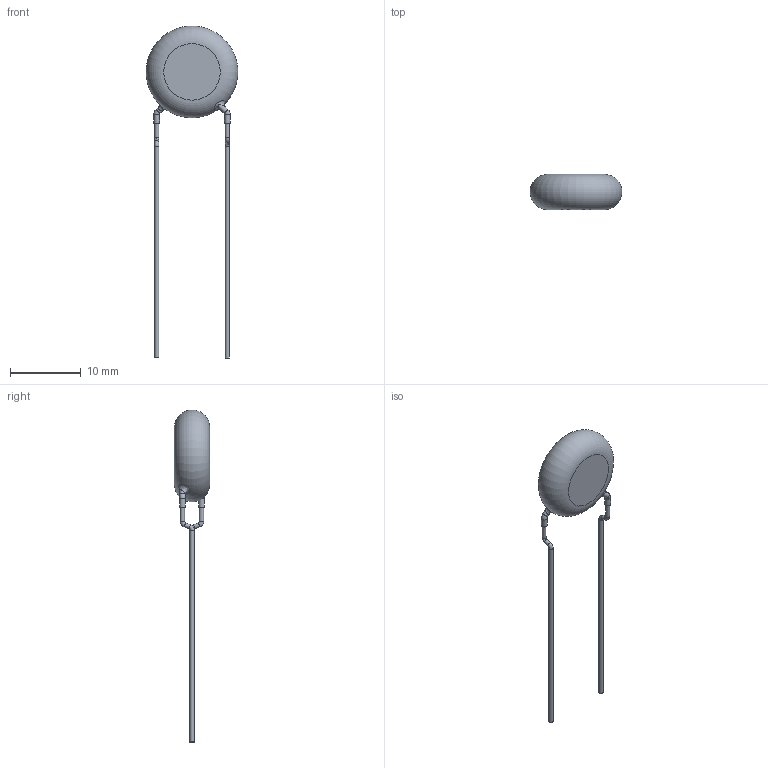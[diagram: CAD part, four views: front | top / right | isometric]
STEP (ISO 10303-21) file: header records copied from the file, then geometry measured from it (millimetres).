
FILE_DESCRIPTION((''),'2;1');
FILE_NAME('I:\Marketing\M6t1\3D-Models\Zchng-Werk-3\Upload for homepage\BCC\VY1-Compact\Y5U-10mm\VY1332M51Y5UC63V0\VY1332M51Y5UC63V0.stp','2015-09-01T11:48:53',('sherden'),(''),'Autodesk Inventor 2013','Autodesk Inventor 2013','');
FILE_SCHEMA(('CONFIG_CONTROL_DESIGN'));
Length unit declared in the file: millimetre
Products named in the file (1): VY1332M51Y5UC63V0
Bounding box: 13 x 5 x 47 mm (x, y, z)
Volume: 586.2 mm3; surface area: 518.9 mm2
Topology: 1 solids, 1 shells, 25 faces, 45 edges, 26 vertices
Faces by surface type: cylinder 10, torus 7, plane 6, bspline 2
Full cylindrical faces by diameter (mm): 0.6 x6, 0.8 x4
Entity records: 803 total; most frequent: CARTESIAN_POINT 326, DIRECTION 92, ORIENTED_EDGE 52, AXIS2_PLACEMENT_3D 46, EDGE_LOOP 46, EDGE_CURVE 26, STYLED_ITEM 26, FACE_OUTER_BOUND 25
